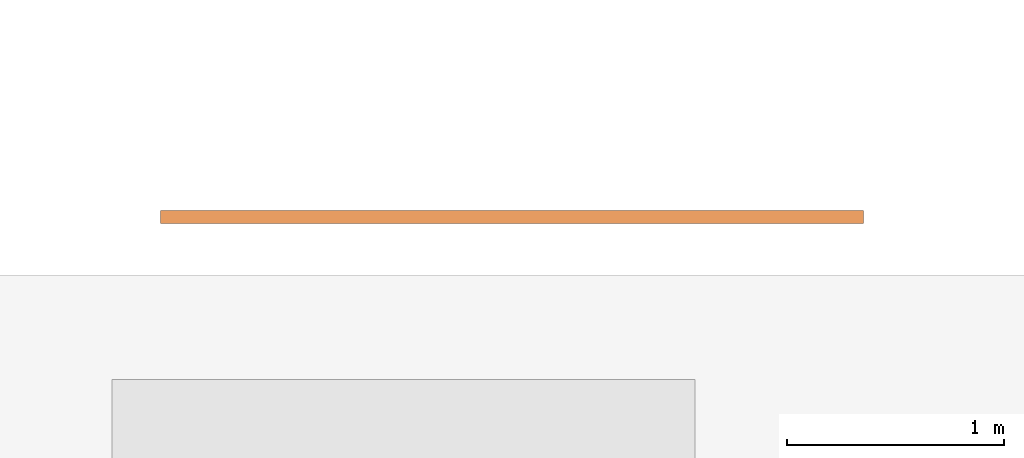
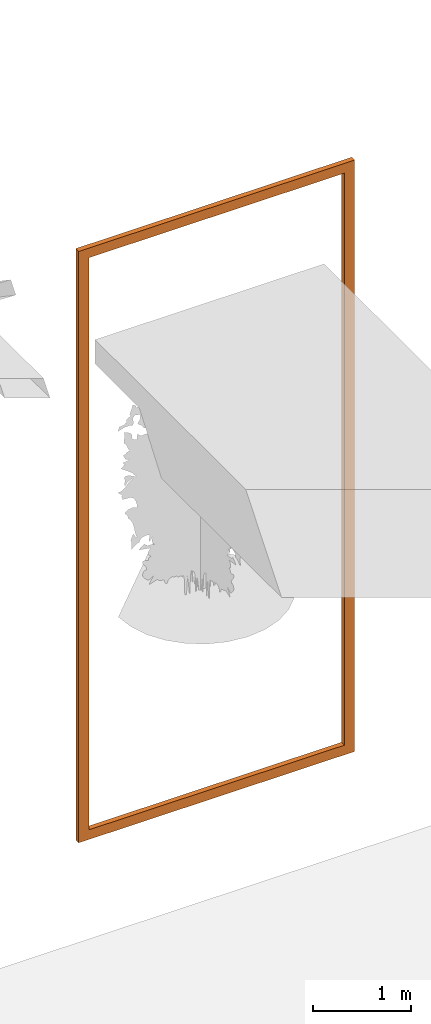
# One storey, part 10 of 14: 1 proxy.
"""IFC2X3 building model written with IfcOpenShell, lengths in millimetres."""

from ifc_helpers import new_model, entity, si_unit, converted_unit, derived_unit, direction, frame, origin, place, context, subcontext, project, spatial, polyline, outline, extrude, source, transform, mapped, material, type_object, type_shapes, element, save


model = new_model("IFC2X3")

# Units and contexts
model_context = context("Model", 3, precision=0.01, world=origin(), true_north=direction((6.12303176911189e-17, 1.0)))
body_context = subcontext(model_context, "Body", "Model", "MODEL_VIEW")
ifc_project = project(units=[si_unit("LENGTHUNIT", "METRE", prefix="MILLI"), si_unit("AREAUNIT", "SQUARE_METRE"), si_unit("VOLUMEUNIT", "CUBIC_METRE"), converted_unit("PLANEANGLEUNIT", "DEGREE", entity("IfcRatioMeasure", 0.0174532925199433), si_unit("PLANEANGLEUNIT", "RADIAN"), dimensions=[0, 0, 0, 0, 0, 0, 0]), si_unit("MASSUNIT", "GRAM", prefix="KILO"), derived_unit("MASSDENSITYUNIT", [(si_unit("MASSUNIT", "GRAM", prefix="KILO"), 1), (si_unit("LENGTHUNIT", "METRE"), -3)]), si_unit("TIMEUNIT", "SECOND"), si_unit("FREQUENCYUNIT", "HERTZ"), si_unit("THERMODYNAMICTEMPERATUREUNIT", "DEGREE_CELSIUS"), derived_unit("THERMALTRANSMITTANCEUNIT", [(si_unit("MASSUNIT", "GRAM", prefix="KILO"), 1), (si_unit("THERMODYNAMICTEMPERATUREUNIT", "KELVIN"), -1), (si_unit("TIMEUNIT", "SECOND"), -3)]), derived_unit("VOLUMETRICFLOWRATEUNIT", [(si_unit("LENGTHUNIT", "METRE"), 3), (si_unit("TIMEUNIT", "SECOND"), -1)]), si_unit("ELECTRICCURRENTUNIT", "AMPERE"), si_unit("ELECTRICVOLTAGEUNIT", "VOLT"), si_unit("POWERUNIT", "WATT"), si_unit("FORCEUNIT", "NEWTON", prefix="KILO"), si_unit("ILLUMINANCEUNIT", "LUX"), si_unit("LUMINOUSFLUXUNIT", "LUMEN"), si_unit("LUMINOUSINTENSITYUNIT", "CANDELA"), derived_unit("USERDEFINED", [(si_unit("MASSUNIT", "GRAM", prefix="KILO"), -1), (si_unit("LENGTHUNIT", "METRE"), -2), (si_unit("TIMEUNIT", "SECOND"), 3), (si_unit("LUMINOUSFLUXUNIT", "LUMEN"), 1)]), derived_unit("LINEARVELOCITYUNIT", [(si_unit("LENGTHUNIT", "METRE"), 1), (si_unit("TIMEUNIT", "SECOND"), -1)]), si_unit("PRESSUREUNIT", "PASCAL"), derived_unit("USERDEFINED", [(si_unit("LENGTHUNIT", "METRE"), -2), (si_unit("MASSUNIT", "GRAM", prefix="KILO"), 1), (si_unit("TIMEUNIT", "SECOND"), -2)])], contexts=[model_context])

# Site, building, storey
site_placement = place(None, origin())
site = spatial("IfcSite", under=ifc_project, at=site_placement, Name="表面", CompositionType="ELEMENT")
building_placement = place(site_placement, origin())
building = spatial("IfcBuilding", under=site, at=building_placement, CompositionType="ELEMENT")
storey_placement = place(building_placement, origin())
storey = spatial("IfcBuildingStorey", under=building, at=storey_placement, Name="±0.000", CompositionType="ELEMENT", Elevation=0.0)

# Proxy
ifc_material = material(Name="砖石建筑 - 瓷砖")
building_element_proxy_type = type_object("IfcBuildingElementProxyType", Name="3mX7100", PredefinedType="NOTDEFINED", material=ifc_material)
shared_shape = source(origin(), body_context, "Body", "SweptSolid", [
    extrude(outline(polyline([(-1620.0, -3670.0), (1620.0, -3670.0), (1620.0, 3670.0), (-1620.0, 3670.0), (-1620.0, -3670.0)]), holes=[polyline([(-1500.0, -3550.0), (-1500.0, 3550.0), (1500.0, 3550.0), (1500.0, -3550.0), (-1500.0, -3550.0)])]), frame((125.0, 120.0, 4029.66314124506), z_axis=(0.0, 1.0, 0.0), x_axis=(1.0, 0.0, 0.0)), (0.0, 0.0, 1.0), 60.0),
])
type_shapes(building_element_proxy_type, [shared_shape])
proxy_placement = place(storey_placement, frame((-21653.7987814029, 15729.6974073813, 680.336858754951)))
element("IfcBuildingElementProxy", 1, at=proxy_placement, inside=storey, type_object=building_element_proxy_type, material=ifc_material, Name="基于墙的墙面装饰:3mX7100", ObjectType="3mX7100", context=body_context, shape_type="MappedRepresentation", body=[
    mapped(shared_shape, transform((0.0, 0.0, 0.0), scale=1.0)),
])

save(model, "model.ifc")
